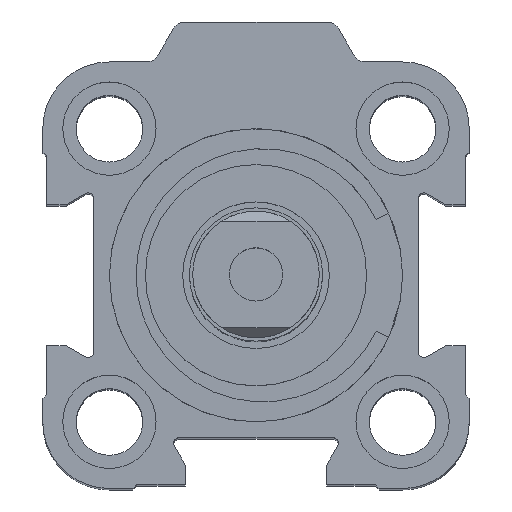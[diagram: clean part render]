
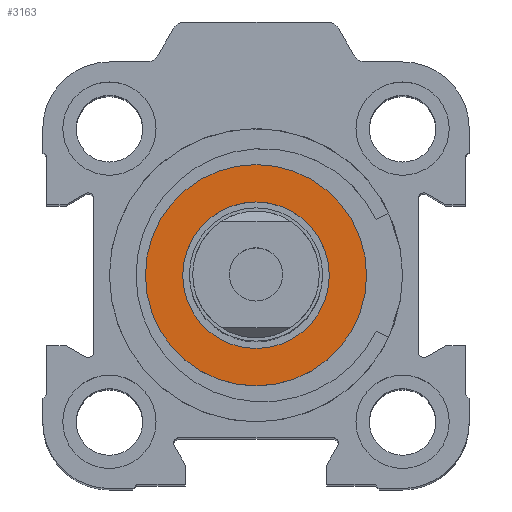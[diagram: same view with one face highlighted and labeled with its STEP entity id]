
A CAD part, top view. The second image highlights one B-rep face of the part: STEP entity #3163.
In plain terms, the highlighted planar face has unit normal (0, 0, 1).
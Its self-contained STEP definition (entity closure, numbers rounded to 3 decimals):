
#731=CARTESIAN_POINT('',(-10.201,37.167,32.5));
#732=VERTEX_POINT('',#731);
#748=CARTESIAN_POINT('',(-26.801,37.167,32.5));
#749=VERTEX_POINT('',#748);
#756=CARTESIAN_POINT('',(-18.501,37.167,32.5));
#757=DIRECTION('',(0.0,0.0,1.0));
#758=DIRECTION('',(1.0,0.0,0.0));
#759=AXIS2_PLACEMENT_3D('',#756,#757,#758);
#760=CIRCLE('',#759,8.3);
#761=EDGE_CURVE('',#732,#749,#760,.T.);
#1693=CARTESIAN_POINT('',(-13.001,37.167,32.5));
#1694=VERTEX_POINT('',#1693);
#1710=CARTESIAN_POINT('',(-24.001,37.167,32.5));
#1711=VERTEX_POINT('',#1710);
#1718=CARTESIAN_POINT('',(-18.501,37.167,32.5));
#1719=DIRECTION('',(0.0,0.0,-1.0));
#1720=DIRECTION('',(1.0,0.0,0.0));
#1721=AXIS2_PLACEMENT_3D('',#1718,#1719,#1720);
#1722=CIRCLE('',#1721,5.5);
#1723=EDGE_CURVE('',#1694,#1711,#1722,.T.);
#2106=CARTESIAN_POINT('',(-18.501,37.167,32.5));
#2107=DIRECTION('',(0.0,0.0,-1.0));
#2108=DIRECTION('',(1.0,0.0,0.0));
#2109=AXIS2_PLACEMENT_3D('',#2106,#2107,#2108);
#2110=CIRCLE('',#2109,5.5);
#2111=EDGE_CURVE('',#1711,#1694,#2110,.T.);
#3114=CARTESIAN_POINT('',(-18.501,37.167,32.5));
#3115=DIRECTION('',(0.0,0.0,1.0));
#3116=DIRECTION('',(1.0,0.0,0.0));
#3117=AXIS2_PLACEMENT_3D('',#3114,#3115,#3116);
#3118=CIRCLE('',#3117,8.3);
#3119=EDGE_CURVE('',#749,#732,#3118,.T.);
#3150=CARTESIAN_POINT('',(0.7,-2.301,32.5));
#3151=DIRECTION('',(0.0,0.0,1.0));
#3152=DIRECTION('',(1.0,0.0,0.0));
#3153=AXIS2_PLACEMENT_3D('',#3150,#3151,#3152);
#3154=PLANE('',#3153);
#3155=ORIENTED_EDGE('',*,*,#761,.T.);
#3156=ORIENTED_EDGE('',*,*,#3119,.T.);
#3157=EDGE_LOOP('',(#3155,#3156));
#3158=FACE_OUTER_BOUND('',#3157,.T.);
#3159=ORIENTED_EDGE('',*,*,#1723,.T.);
#3160=ORIENTED_EDGE('',*,*,#2111,.T.);
#3161=EDGE_LOOP('',(#3159,#3160));
#3162=FACE_BOUND('',#3161,.T.);
#3163=ADVANCED_FACE('',(#3158,#3162),#3154,.T.);
